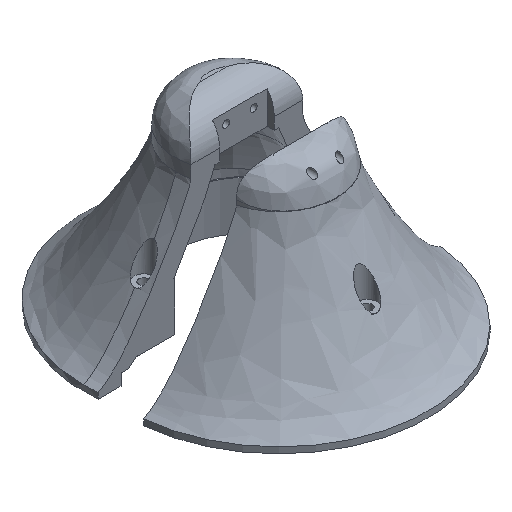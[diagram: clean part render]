
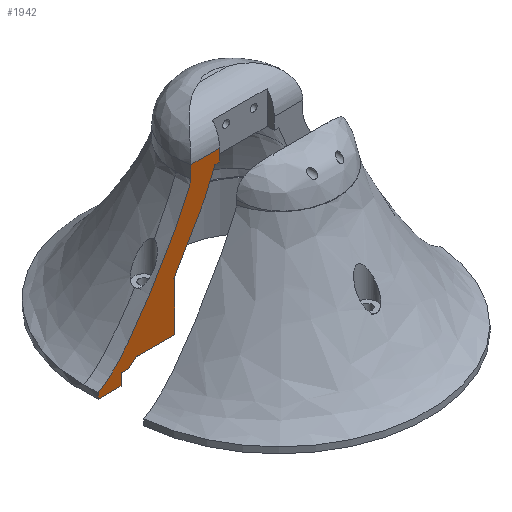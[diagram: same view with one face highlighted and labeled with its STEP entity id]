
A CAD part, isometric view. The second image highlights one B-rep face of the part: STEP entity #1942.
In plain terms, the highlighted planar face has unit normal (0, -1, 0).
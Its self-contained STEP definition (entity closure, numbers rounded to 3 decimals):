
#200=PLANE('',#2077);
#279=FACE_OUTER_BOUND('',#403,.T.);
#403=EDGE_LOOP('',(#1497,#1498,#1499,#1500,#1501,#1502,#1503,#1504,#1505,
#1506,#1507,#1508,#1509,#1510,#1511,#1512,#1513,#1514,#1515,#1516,#1517,
#1518,#1519));
#523=LINE('',#3970,#611);
#529=LINE('',#4149,#617);
#531=LINE('',#4153,#619);
#532=LINE('',#4168,#620);
#533=LINE('',#4170,#621);
#534=LINE('',#4172,#622);
#535=LINE('',#4173,#623);
#536=LINE('',#4175,#624);
#537=LINE('',#4182,#625);
#538=LINE('',#4184,#626);
#539=LINE('',#4193,#627);
#540=LINE('',#4200,#628);
#541=LINE('',#4202,#629);
#542=LINE('',#4204,#630);
#543=LINE('',#4206,#631);
#544=LINE('',#4232,#632);
#611=VECTOR('',#2322,10.);
#617=VECTOR('',#2344,10.);
#619=VECTOR('',#2348,10.);
#620=VECTOR('',#2349,10.);
#621=VECTOR('',#2350,10.);
#622=VECTOR('',#2351,10.);
#623=VECTOR('',#2352,10.);
#624=VECTOR('',#2353,10.);
#625=VECTOR('',#2354,10.);
#626=VECTOR('',#2355,10.);
#627=VECTOR('',#2356,10.);
#628=VECTOR('',#2357,10.);
#629=VECTOR('',#2358,10.);
#630=VECTOR('',#2359,10.);
#631=VECTOR('',#2360,10.);
#632=VECTOR('',#2361,10.);
#708=B_SPLINE_CURVE_WITH_KNOTS('',3,(#4155,#4156,#4157,#4158,#4159,#4160,
#4161,#4162,#4163,#4164,#4165,#4166),.UNSPECIFIED.,.F.,.F.,(4,2,2,2,2,4),
(-4.117,-3.629,-2.935,-1.176,
-0.218,0.),.UNSPECIFIED.);
#709=B_SPLINE_CURVE_WITH_KNOTS('',3,(#4177,#4178,#4179,#4180),
 .UNSPECIFIED.,.F.,.F.,(4,4),(-0.006,0.),.UNSPECIFIED.);
#710=B_SPLINE_CURVE_WITH_KNOTS('',3,(#4186,#4187,#4188,#4189,#4190,#4191),
 .UNSPECIFIED.,.F.,.F.,(4,2,4),(-0.839,-0.836,-0.398),
 .UNSPECIFIED.);
#711=B_SPLINE_CURVE_WITH_KNOTS('',3,(#4195,#4196,#4197,#4198),
 .UNSPECIFIED.,.F.,.F.,(4,4),(-1.138,-1.103),
 .UNSPECIFIED.);
#712=B_SPLINE_CURVE_WITH_KNOTS('',3,(#4208,#4209,#4210,#4211,#4212,#4213,
#4214,#4215,#4216,#4217),.UNSPECIFIED.,.F.,.F.,(4,2,2,2,4),(-4.203,
-3.75,-3.242,-2.127,-1.495),
 .UNSPECIFIED.);
#713=B_SPLINE_CURVE_WITH_KNOTS('',3,(#4219,#4220,#4221,#4222,#4223,#4224),
 .UNSPECIFIED.,.F.,.F.,(4,2,4),(-1.148,-0.589,0.),
 .UNSPECIFIED.);
#714=B_SPLINE_CURVE_WITH_KNOTS('',3,(#4226,#4227,#4228,#4229,#4230,#4231),
 .UNSPECIFIED.,.F.,.F.,(4,2,4),(-0.015,-0.007,
0.),.UNSPECIFIED.);
#853=VERTEX_POINT('',#3952);
#854=VERTEX_POINT('',#3969);
#866=VERTEX_POINT('',#4148);
#867=VERTEX_POINT('',#4152);
#868=VERTEX_POINT('',#4154);
#869=VERTEX_POINT('',#4167);
#870=VERTEX_POINT('',#4169);
#871=VERTEX_POINT('',#4171);
#872=VERTEX_POINT('',#4174);
#873=VERTEX_POINT('',#4176);
#874=VERTEX_POINT('',#4181);
#875=VERTEX_POINT('',#4183);
#876=VERTEX_POINT('',#4185);
#877=VERTEX_POINT('',#4192);
#878=VERTEX_POINT('',#4194);
#879=VERTEX_POINT('',#4199);
#880=VERTEX_POINT('',#4201);
#881=VERTEX_POINT('',#4203);
#882=VERTEX_POINT('',#4205);
#883=VERTEX_POINT('',#4207);
#884=VERTEX_POINT('',#4218);
#885=VERTEX_POINT('',#4225);
#1080=EDGE_CURVE('',#853,#854,#523,.T.);
#1096=EDGE_CURVE('',#854,#866,#529,.T.);
#1098=EDGE_CURVE('',#867,#853,#531,.T.);
#1099=EDGE_CURVE('',#868,#867,#708,.T.);
#1100=EDGE_CURVE('',#869,#868,#532,.T.);
#1101=EDGE_CURVE('',#870,#869,#533,.T.);
#1102=EDGE_CURVE('',#871,#870,#534,.T.);
#1103=EDGE_CURVE('',#871,#870,#535,.T.);
#1104=EDGE_CURVE('',#872,#870,#536,.T.);
#1105=EDGE_CURVE('',#873,#872,#709,.T.);
#1106=EDGE_CURVE('',#873,#874,#537,.T.);
#1107=EDGE_CURVE('',#874,#875,#538,.T.);
#1108=EDGE_CURVE('',#876,#875,#710,.T.);
#1109=EDGE_CURVE('',#876,#877,#539,.T.);
#1110=EDGE_CURVE('',#878,#877,#711,.T.);
#1111=EDGE_CURVE('',#879,#878,#540,.T.);
#1112=EDGE_CURVE('',#880,#879,#541,.T.);
#1113=EDGE_CURVE('',#881,#880,#542,.T.);
#1114=EDGE_CURVE('',#881,#882,#543,.T.);
#1115=EDGE_CURVE('',#883,#882,#712,.T.);
#1116=EDGE_CURVE('',#884,#883,#713,.T.);
#1117=EDGE_CURVE('',#885,#884,#714,.T.);
#1118=EDGE_CURVE('',#866,#885,#544,.T.);
#1497=ORIENTED_EDGE('',*,*,#1080,.F.);
#1498=ORIENTED_EDGE('',*,*,#1098,.F.);
#1499=ORIENTED_EDGE('',*,*,#1099,.F.);
#1500=ORIENTED_EDGE('',*,*,#1100,.F.);
#1501=ORIENTED_EDGE('',*,*,#1101,.F.);
#1502=ORIENTED_EDGE('',*,*,#1102,.F.);
#1503=ORIENTED_EDGE('',*,*,#1103,.T.);
#1504=ORIENTED_EDGE('',*,*,#1104,.F.);
#1505=ORIENTED_EDGE('',*,*,#1105,.F.);
#1506=ORIENTED_EDGE('',*,*,#1106,.T.);
#1507=ORIENTED_EDGE('',*,*,#1107,.T.);
#1508=ORIENTED_EDGE('',*,*,#1108,.F.);
#1509=ORIENTED_EDGE('',*,*,#1109,.T.);
#1510=ORIENTED_EDGE('',*,*,#1110,.F.);
#1511=ORIENTED_EDGE('',*,*,#1111,.F.);
#1512=ORIENTED_EDGE('',*,*,#1112,.F.);
#1513=ORIENTED_EDGE('',*,*,#1113,.F.);
#1514=ORIENTED_EDGE('',*,*,#1114,.T.);
#1515=ORIENTED_EDGE('',*,*,#1115,.F.);
#1516=ORIENTED_EDGE('',*,*,#1116,.F.);
#1517=ORIENTED_EDGE('',*,*,#1117,.F.);
#1518=ORIENTED_EDGE('',*,*,#1118,.F.);
#1519=ORIENTED_EDGE('',*,*,#1096,.F.);
#1942=ADVANCED_FACE('',(#279),#200,.F.);
#2077=AXIS2_PLACEMENT_3D('',#4151,#2346,#2347);
#2322=DIRECTION('',(1.,0.,0.));
#2344=DIRECTION('',(0.,0.,-1.));
#2346=DIRECTION('center_axis',(0.,1.,0.));
#2347=DIRECTION('ref_axis',(0.,0.,1.));
#2348=DIRECTION('',(0.,0.,1.));
#2349=DIRECTION('',(0.,0.,1.));
#2350=DIRECTION('',(-1.,0.,0.));
#2351=DIRECTION('',(0.,0.,-1.));
#2352=DIRECTION('',(0.,0.,-1.));
#2353=DIRECTION('',(-0.008,0.,-1.));
#2354=DIRECTION('',(0.,0.,1.));
#2355=DIRECTION('',(1.,0.,0.));
#2356=DIRECTION('',(1.,0.,0.));
#2357=DIRECTION('',(-1.,0.,0.));
#2358=DIRECTION('',(0.,0.,-1.));
#2359=DIRECTION('',(0.,0.,-1.));
#2360=DIRECTION('',(-1.,0.,0.));
#2361=DIRECTION('',(-1.,0.,0.));
#3952=CARTESIAN_POINT('',(-24.589,155.,44.342));
#3969=CARTESIAN_POINT('',(-11.968,155.,44.342));
#3970=CARTESIAN_POINT('',(0.,155.,44.342));
#4148=CARTESIAN_POINT('',(-11.968,155.,39.042));
#4149=CARTESIAN_POINT('',(-11.968,155.,28.156));
#4151=CARTESIAN_POINT('Origin',(0.,155.,17.27));
#4152=CARTESIAN_POINT('',(-24.589,155.,39.042));
#4153=CARTESIAN_POINT('',(-24.589,155.,39.042));
#4154=CARTESIAN_POINT('',(-65.251,155.,-21.85));
#4155=CARTESIAN_POINT('Ctrl Pts',(-65.251,155.,-21.85));
#4156=CARTESIAN_POINT('Ctrl Pts',(-62.674,155.,-20.656));
#4157=CARTESIAN_POINT('Ctrl Pts',(-60.106,155.,-18.453));
#4158=CARTESIAN_POINT('Ctrl Pts',(-54.799,155.,-13.068));
#4159=CARTESIAN_POINT('Ctrl Pts',(-51.743,155.,-9.14));
#4160=CARTESIAN_POINT('Ctrl Pts',(-42.652,155.,3.505));
#4161=CARTESIAN_POINT('Ctrl Pts',(-35.9,155.,14.967));
#4162=CARTESIAN_POINT('Ctrl Pts',(-29.099,155.,27.624));
#4163=CARTESIAN_POINT('Ctrl Pts',(-26.355,155.,33.051));
#4164=CARTESIAN_POINT('Ctrl Pts',(-24.9,155.,37.432));
#4165=CARTESIAN_POINT('Ctrl Pts',(-24.654,155.,38.32));
#4166=CARTESIAN_POINT('Ctrl Pts',(-24.589,155.,39.042));
#4167=CARTESIAN_POINT('',(-65.251,155.,-24.5));
#4168=CARTESIAN_POINT('',(-65.251,155.,-24.425));
#4169=CARTESIAN_POINT('',(-55.222,155.,-24.5));
#4170=CARTESIAN_POINT('',(0.,155.,-24.5));
#4171=CARTESIAN_POINT('',(-55.222,155.,-19.5));
#4172=CARTESIAN_POINT('',(-55.222,155.,-24.5));
#4173=CARTESIAN_POINT('',(-55.222,155.,-24.5));
#4174=CARTESIAN_POINT('',(-55.201,155.,-21.85));
#4175=CARTESIAN_POINT('',(-55.212,155.,-23.175));
#4176=CARTESIAN_POINT('',(-55.15,155.,-21.819));
#4177=CARTESIAN_POINT('Ctrl Pts',(-55.15,155.,-21.819));
#4178=CARTESIAN_POINT('Ctrl Pts',(-55.167,155.,-21.829));
#4179=CARTESIAN_POINT('Ctrl Pts',(-55.184,155.,-21.839));
#4180=CARTESIAN_POINT('Ctrl Pts',(-55.201,155.,-21.85));
#4181=CARTESIAN_POINT('',(-55.15,155.,-19.5));
#4182=CARTESIAN_POINT('',(-55.15,155.,-24.5));
#4183=CARTESIAN_POINT('',(-51.87,155.,-19.5));
#4184=CARTESIAN_POINT('',(-0.018,155.,-19.5));
#4185=CARTESIAN_POINT('',(-48.483,155.,-16.5));
#4186=CARTESIAN_POINT('Ctrl Pts',(-48.483,155.,-16.5));
#4187=CARTESIAN_POINT('Ctrl Pts',(-48.49,155.,-16.507));
#4188=CARTESIAN_POINT('Ctrl Pts',(-48.497,155.,-16.514));
#4189=CARTESIAN_POINT('Ctrl Pts',(-49.554,155.,-17.533));
#4190=CARTESIAN_POINT('Ctrl Pts',(-50.686,155.,-18.552));
#4191=CARTESIAN_POINT('Ctrl Pts',(-51.87,155.,-19.5));
#4192=CARTESIAN_POINT('',(-48.119,155.,-16.5));
#4193=CARTESIAN_POINT('',(-48.5,155.,-16.5));
#4194=CARTESIAN_POINT('',(-48.369,155.,-16.747));
#4195=CARTESIAN_POINT('Ctrl Pts',(-48.369,155.,-16.747));
#4196=CARTESIAN_POINT('Ctrl Pts',(-48.285,155.,-16.665));
#4197=CARTESIAN_POINT('Ctrl Pts',(-48.202,155.,-16.583));
#4198=CARTESIAN_POINT('Ctrl Pts',(-48.119,155.,-16.5));
#4199=CARTESIAN_POINT('',(-31.647,155.,-16.747));
#4200=CARTESIAN_POINT('',(-16.105,155.,-16.747));
#4201=CARTESIAN_POINT('',(-31.647,155.,-16.5));
#4202=CARTESIAN_POINT('',(-31.647,155.,-5.939));
#4203=CARTESIAN_POINT('',(-31.647,155.,4.868));
#4204=CARTESIAN_POINT('',(-31.647,155.,-5.939));
#4205=CARTESIAN_POINT('',(-32.049,155.,4.868));
#4206=CARTESIAN_POINT('',(-31.647,155.,4.868));
#4207=CARTESIAN_POINT('',(-18.504,155.,28.28));
#4208=CARTESIAN_POINT('Ctrl Pts',(-18.504,155.,28.28));
#4209=CARTESIAN_POINT('Ctrl Pts',(-19.182,155.,26.963));
#4210=CARTESIAN_POINT('Ctrl Pts',(-19.894,155.,25.624));
#4211=CARTESIAN_POINT('Ctrl Pts',(-21.391,155.,22.861));
#4212=CARTESIAN_POINT('Ctrl Pts',(-22.209,155.,21.386));
#4213=CARTESIAN_POINT('Ctrl Pts',(-24.822,155.,16.757));
#4214=CARTESIAN_POINT('Ctrl Pts',(-26.729,155.,13.502));
#4215=CARTESIAN_POINT('Ctrl Pts',(-29.715,155.,8.586));
#4216=CARTESIAN_POINT('Ctrl Pts',(-30.86,155.,6.737));
#4217=CARTESIAN_POINT('Ctrl Pts',(-32.049,155.,4.868));
#4218=CARTESIAN_POINT('',(-14.101,155.,38.897));
#4219=CARTESIAN_POINT('Ctrl Pts',(-14.101,155.,38.897));
#4220=CARTESIAN_POINT('Ctrl Pts',(-14.728,155.,37.143));
#4221=CARTESIAN_POINT('Ctrl Pts',(-15.407,155.,35.399));
#4222=CARTESIAN_POINT('Ctrl Pts',(-16.874,155.,31.864));
#4223=CARTESIAN_POINT('Ctrl Pts',(-17.673,155.,30.06));
#4224=CARTESIAN_POINT('Ctrl Pts',(-18.504,155.,28.28));
#4225=CARTESIAN_POINT('',(-14.085,155.,39.042));
#4226=CARTESIAN_POINT('Ctrl Pts',(-14.085,155.,39.042));
#4227=CARTESIAN_POINT('Ctrl Pts',(-14.088,155.,39.018));
#4228=CARTESIAN_POINT('Ctrl Pts',(-14.09,155.,38.994));
#4229=CARTESIAN_POINT('Ctrl Pts',(-14.095,155.,38.946));
#4230=CARTESIAN_POINT('Ctrl Pts',(-14.098,155.,38.922));
#4231=CARTESIAN_POINT('Ctrl Pts',(-14.101,155.,38.897));
#4232=CARTESIAN_POINT('',(0.,155.,39.042));
